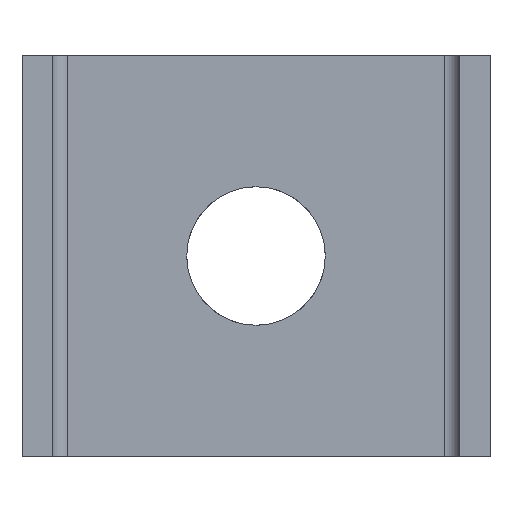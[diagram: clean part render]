
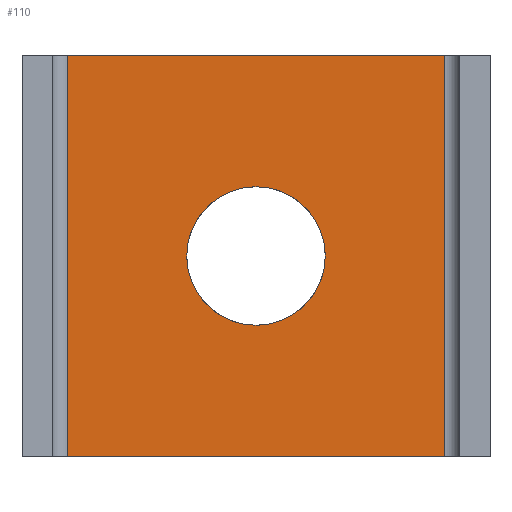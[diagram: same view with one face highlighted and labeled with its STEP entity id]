
A CAD part, front view. The second image highlights one B-rep face of the part: STEP entity #110.
In plain terms, the highlighted planar face has unit normal (0, -1, 0).
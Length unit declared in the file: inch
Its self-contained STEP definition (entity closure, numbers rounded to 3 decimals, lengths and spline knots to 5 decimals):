
#110=ADVANCED_FACE('',(#270,#271),#272,.T.);
#118=EDGE_CURVE('',#282,#283,#284,.T.);
#160=EDGE_CURVE('',#345,#282,#346,.T.);
#162=EDGE_CURVE('',#345,#333,#348,.T.);
#184=EDGE_CURVE('',#333,#283,#376,.T.);
#270=FACE_BOUND('',#485,.T.);
#271=FACE_OUTER_BOUND('',#486,.T.);
#272=PLANE('',#487);
#282=VERTEX_POINT('',#500);
#283=VERTEX_POINT('',#501);
#284=LINE('',#502,#503);
#333=VERTEX_POINT('',#580);
#345=VERTEX_POINT('',#614);
#346=LINE('',#615,#616);
#348=LINE('',#619,#620);
#376=LINE('',#681,#682);
#485=EDGE_LOOP('',(#824,#825,#826,#827));
#486=EDGE_LOOP('',(#828,#829,#830,#831));
#487=AXIS2_PLACEMENT_3D('',#832,#833,#834);
#500=CARTESIAN_POINT('',(1.71731,0.34935,1.625));
#501=CARTESIAN_POINT('',(0.18346,0.34935,1.625));
#502=CARTESIAN_POINT('',(1.71731,0.34935,1.625));
#503=VECTOR('',#860,1.0);
#580=CARTESIAN_POINT('',(0.18346,0.34935,0.0));
#614=CARTESIAN_POINT('',(1.71731,0.34935,0.0));
#615=CARTESIAN_POINT('',(1.71731,0.34935,0.0));
#616=VECTOR('',#912,1.0);
#619=CARTESIAN_POINT('',(1.71731,0.34935,0.0));
#620=VECTOR('',#913,1.0);
#681=CARTESIAN_POINT('',(0.18346,0.34935,0.0));
#682=VECTOR('',#941,1.0);
#824=ORIENTED_EDGE('',*,*,#1002,.T.);
#825=ORIENTED_EDGE('',*,*,#1003,.T.);
#826=ORIENTED_EDGE('',*,*,#1004,.T.);
#827=ORIENTED_EDGE('',*,*,#1005,.T.);
#828=ORIENTED_EDGE('',*,*,#118,.T.);
#829=ORIENTED_EDGE('',*,*,#184,.F.);
#830=ORIENTED_EDGE('',*,*,#162,.F.);
#831=ORIENTED_EDGE('',*,*,#160,.T.);
#832=CARTESIAN_POINT('',(0.95038,0.34935,0.0));
#833=DIRECTION('',(0.0,-1.0,0.0));
#834=DIRECTION('',(1.0,0.0,-0.0));
#860=DIRECTION('',(-1.0,0.0,0.0));
#912=DIRECTION('',(0.0,0.0,1.0));
#913=DIRECTION('',(-1.0,0.0,0.0));
#941=DIRECTION('',(0.0,0.0,1.0));
#1002=EDGE_CURVE('',#1033,#1034,#1035,.T.);
#1003=EDGE_CURVE('',#1034,#1036,#1037,.T.);
#1004=EDGE_CURVE('',#1036,#1038,#1039,.T.);
#1005=EDGE_CURVE('',#1038,#1033,#1040,.T.);
#1033=VERTEX_POINT('',#1072);
#1034=VERTEX_POINT('',#1073);
#1035=B_SPLINE_CURVE_WITH_KNOTS('',3,(#1074,#1075,#1076,#1077),.UNSPECIFIED.,.F.,.F.,(4,4),(0.0,1.0),.UNSPECIFIED.);
#1036=VERTEX_POINT('',#1078);
#1037=B_SPLINE_CURVE_WITH_KNOTS('',3,(#1079,#1080,#1081,#1082),.UNSPECIFIED.,.F.,.F.,(4,4),(0.0,1.0),.UNSPECIFIED.);
#1038=VERTEX_POINT('',#1083);
#1039=B_SPLINE_CURVE_WITH_KNOTS('',3,(#1084,#1085,#1086,#1087),.UNSPECIFIED.,.F.,.F.,(4,4),(0.0,1.0),.UNSPECIFIED.);
#1040=B_SPLINE_CURVE_WITH_KNOTS('',3,(#1088,#1089,#1090,#1091),.UNSPECIFIED.,.F.,.F.,(4,4),(0.0,1.0),.UNSPECIFIED.);
#1072=CARTESIAN_POINT('',(1.23163,0.34935,0.8125));
#1073=CARTESIAN_POINT('',(0.95038,0.34935,0.53125));
#1074=CARTESIAN_POINT('',(1.23163,0.34935,0.8125));
#1075=CARTESIAN_POINT('',(1.23163,0.34935,0.65717));
#1076=CARTESIAN_POINT('',(1.10571,0.34935,0.53125));
#1077=CARTESIAN_POINT('',(0.95038,0.34935,0.53125));
#1078=CARTESIAN_POINT('',(0.66913,0.34935,0.8125));
#1079=CARTESIAN_POINT('',(0.95038,0.34935,0.53125));
#1080=CARTESIAN_POINT('',(0.79505,0.34935,0.53125));
#1081=CARTESIAN_POINT('',(0.66913,0.34935,0.65717));
#1082=CARTESIAN_POINT('',(0.66913,0.34935,0.8125));
#1083=CARTESIAN_POINT('',(0.95038,0.34935,1.09375));
#1084=CARTESIAN_POINT('',(0.66913,0.34935,0.8125));
#1085=CARTESIAN_POINT('',(0.66913,0.34935,0.96783));
#1086=CARTESIAN_POINT('',(0.79505,0.34935,1.09375));
#1087=CARTESIAN_POINT('',(0.95038,0.34935,1.09375));
#1088=CARTESIAN_POINT('',(0.95038,0.34935,1.09375));
#1089=CARTESIAN_POINT('',(1.10571,0.34935,1.09375));
#1090=CARTESIAN_POINT('',(1.23163,0.34935,0.96783));
#1091=CARTESIAN_POINT('',(1.23163,0.34935,0.8125));
